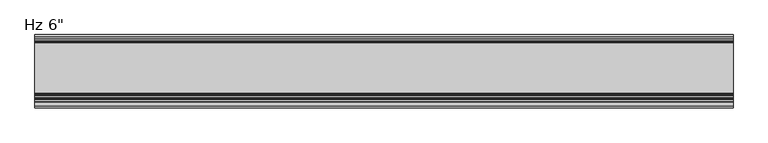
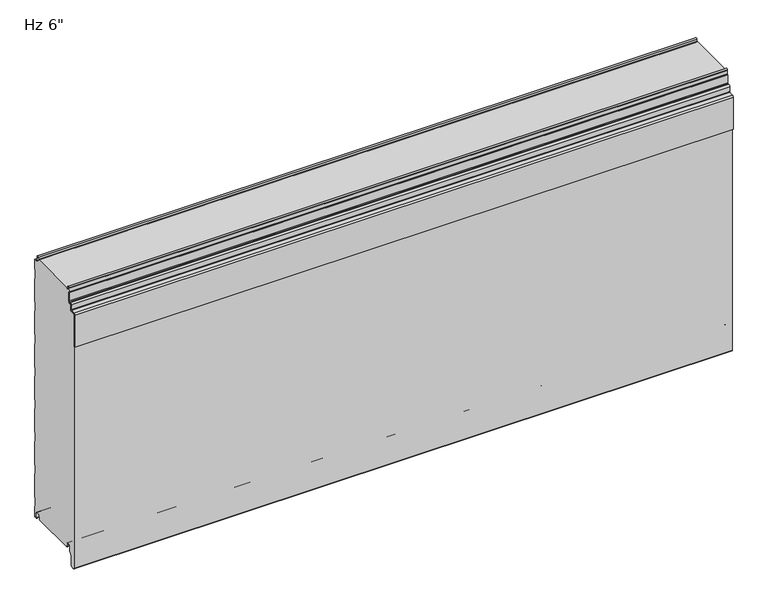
"""IFC4 building model written with IfcOpenShell, lengths in millimetres: plate geometry."""

import ifcopenshell
import ifcopenshell.guid

model = None  # the IFC model being written
_history = None  # IfcOwnerHistory: only IFC2X3 demands one
_inside = {}  # id of a spatial element -> (the spatial element, [elements in it])
_under = {}  # id of a project, library or spatial element -> (it, [spatial elements below it])
_declared = {}  # id of a project -> (the project, [libraries it declares])
_typed = {}  # id of a type object -> (the type object, [elements of that type])
_made_of = {}  # id of a material, layer set ... -> (it, [elements and type objects made of it])


def new_model(schema):
    """Start an empty IFC model of exactly this schema.

    Asked for "IFC4X3", IfcOpenShell would pick the latest addendum, in which some entities
    have other attributes; the version numbers below select the first issue.
    IFC2X3 requires an IfcOwnerHistory on every rooted entity: one is made here for all.
    """
    global model, _history
    if schema == "IFC4X3":
        model = ifcopenshell.file(schema_version=(4, 3, 0, 0))
    else:
        model = ifcopenshell.file(schema=schema)
    _inside.clear()
    _under.clear()
    _declared.clear()
    _typed.clear()
    _made_of.clear()
    _history = None
    if model.schema == "IFC2X3":
        org = make("IfcOrganization", Name="unknown")
        user = make(
            "IfcPersonAndOrganization",
            ThePerson=make("IfcPerson", FamilyName="unknown"),
            TheOrganization=org,
        )
        app = make(
            "IfcApplication",
            ApplicationDeveloper=org,
            Version="unknown",
            ApplicationFullName="unknown",
            ApplicationIdentifier="unknown",
        )
        _history = make(
            "IfcOwnerHistory",
            OwningUser=user,
            OwningApplication=app,
            ChangeAction="ADDED",
            CreationDate=0,
        )
    return model


def make(cls, **values):
    """One entity of the class cls with the attributes given. An attribute that is None is left unset."""
    return model.create_entity(
        cls, **{name: value for name, value in values.items() if value is not None}
    )


def rooted(cls, **values):
    """An entity with a GlobalId (a new one), such as an element, a storey or a relation."""
    return make(cls, GlobalId=ifcopenshell.guid.new(), OwnerHistory=_history, **values)


def si_unit(unit_type, name, prefix=None):
    """IfcSIUnit, for example si_unit("LENGTHUNIT", "METRE", prefix="MILLI")."""
    return make("IfcSIUnit", UnitType=unit_type, Prefix=prefix, Name=name)


def assignment(units):
    """IfcUnitAssignment: the units of a project."""
    return None if units is None else make("IfcUnitAssignment", Units=units)


def point(xyz):
    """IfcCartesianPoint."""
    return None if xyz is None else make("IfcCartesianPoint", Coordinates=xyz)


def direction(xyz):
    """IfcDirection."""
    return None if xyz is None else make("IfcDirection", DirectionRatios=xyz)


def frame(location, z_axis=None, x_axis=None):
    """IfcAxis2Placement3D, a coordinate frame: its origin and axes. An axis left out is left unset."""
    return make(
        "IfcAxis2Placement3D",
        Location=point(location),
        Axis=direction(z_axis),
        RefDirection=direction(x_axis),
    )


def origin():
    """The frame at (0, 0, 0) with its axes left unset."""
    return frame((0.0, 0.0, 0.0))


def place(relative_to, where):
    """IfcLocalPlacement: puts the frame where relative to a parent placement (None: the world)."""
    return make(
        "IfcLocalPlacement", PlacementRelTo=relative_to, RelativePlacement=where
    )


def context(
    kind, dimensions, precision=None, world=None, true_north=None, identifier=None
):
    """IfcGeometricRepresentationContext, for example the 3D "Model" context."""
    return make(
        "IfcGeometricRepresentationContext",
        ContextIdentifier=identifier,
        ContextType=kind,
        CoordinateSpaceDimension=dimensions,
        Precision=precision,
        WorldCoordinateSystem=world,
        TrueNorth=true_north,
    )


def project(units=None, contexts=None):
    """IfcProject with its units and contexts."""
    return rooted(
        "IfcProject",
        Name="project",
        RepresentationContexts=contexts,
        UnitsInContext=assignment(units),
    )


def spatial(cls, under=None, at=None, **own):
    """A site, building, storey or space (cls), placed at a placement, below another one or the project."""
    s = rooted(cls, ObjectPlacement=at, **own)
    if under is not None:
        _under.setdefault(under.id(), (under, []))[1].append(s)
    return s


def polyline(points):
    """IfcPolyline through the points."""
    return make("IfcPolyline", Points=[point(p) for p in points])


def circle_curve(where, radius):
    """IfcCircle in the frame where."""
    return make("IfcCircle", Position=where, Radius=radius)


def shape(context_of_items, identifier, shape_type, items):
    """IfcShapeRepresentation: the items that make up one representation, for example the "Body"."""
    return make(
        "IfcShapeRepresentation",
        ContextOfItems=context_of_items,
        RepresentationIdentifier=identifier,
        RepresentationType=shape_type,
        Items=items,
    )


def source(mapping_origin, context_of_items, identifier, shape_type, items):
    """IfcRepresentationMap: a shape defined once, which mapped items show again and again."""
    return make(
        "IfcRepresentationMap",
        MappingOrigin=mapping_origin,
        MappedRepresentation=shape(context_of_items, identifier, shape_type, items),
    )


def transform(
    local_origin,
    x_axis=None,
    y_axis=None,
    z_axis=None,
    scale=None,
    scale2=None,
    scale3=None,
    uniform=True,
):
    """IfcCartesianTransformationOperator3D, or its non-uniform kind. x_axis, y_axis, z_axis: its Axis1, 2, 3."""
    if uniform:
        return make(
            "IfcCartesianTransformationOperator3D",
            Axis1=direction(x_axis),
            Axis2=direction(y_axis),
            LocalOrigin=point(local_origin),
            Scale=scale,
            Axis3=direction(z_axis),
        )
    return make(
        "IfcCartesianTransformationOperator3DnonUniform",
        Axis1=direction(x_axis),
        Axis2=direction(y_axis),
        LocalOrigin=point(local_origin),
        Scale=scale,
        Axis3=direction(z_axis),
        Scale2=scale2,
        Scale3=scale3,
    )


def mapped(mapping_source, mapping_target):
    """IfcMappedItem: shows the shape of a source again, moved by a transform."""
    return make(
        "IfcMappedItem", MappingSource=mapping_source, MappingTarget=mapping_target
    )


def made_of(thing, what):
    """Note that an element or type object is made of a material, layer set ...; save() writes the relation."""
    if what is not None:
        _made_of.setdefault(what.id(), (what, []))[1].append(thing)
    return thing


def element(
    cls,
    number,
    at=None,
    inside=None,
    cuts=None,
    type_object=None,
    material=None,
    context=None,
    identifier="Body",
    shape_type=None,
    held_by="IfcProductDefinitionShape",
    body=None,
    shapes=None,
    **own,
):
    """One element of the class cls, such as IfcWall. Its Tag is "e" and its number.

    at: its placement. inside: the storey or other place that contains it. cuts: it is an
    opening in that element (IfcRelVoidsElement). A single representation is given by context,
    identifier, shape_type and body (its items); several are given by shapes. held_by: the class
    of the entity that holds the representations. save() writes the other relations.
    """
    e = rooted(cls, Tag="e%d" % number, ObjectPlacement=at, **own)
    if body is not None:
        shapes = [shape(context, identifier, shape_type, body)]
    if shapes is not None:
        e.Representation = make(held_by, Representations=shapes)
    if inside is not None:
        _inside.setdefault(inside.id(), (inside, []))[1].append(e)
    if cuts is not None:
        rooted(
            "IfcRelVoidsElement", RelatingBuildingElement=cuts, RelatedOpeningElement=e
        )
    if type_object is not None:
        _typed.setdefault(type_object.id(), (type_object, []))[1].append(e)
    return made_of(e, material)


def aggregate(whole, parts):
    """IfcRelAggregates: a whole, such as a stair, and the parts it consists of."""
    return rooted("IfcRelAggregates", RelatingObject=whole, RelatedObjects=parts)


def save(model, path):
    """Write the relations noted so far, then the file.

    IfcRelAggregates (storeys below a building ...), IfcRelContainedInSpatialStructure (elements
    in a storey), IfcRelDefinesByType, IfcRelAssociatesMaterial and IfcRelDeclares: one each for
    every whole, place, type object, material and project.
    """
    for whole, parts in _under.values():
        aggregate(whole, parts)
    for where, things in _inside.values():
        rooted(
            "IfcRelContainedInSpatialStructure",
            RelatedElements=things,
            RelatingStructure=where,
        )
    for kind, things in _typed.values():
        rooted("IfcRelDefinesByType", RelatedObjects=things, RelatingType=kind)
    for what, things in _made_of.values():
        rooted("IfcRelAssociatesMaterial", RelatedObjects=things, RelatingMaterial=what)
    for by, libraries in _declared.values():
        rooted("IfcRelDeclares", RelatingContext=by, RelatedDefinitions=libraries)
    model.write(path)


def plane_surface(at):
    """IfcPlane: the flat surface through the origin of the frame at, square to its z axis."""
    return make("IfcPlane", Position=at)


def cylinder_surface(at, radius):
    """IfcCylindricalSurface: all points at the distance radius from the z axis of the frame at."""
    return make("IfcCylindricalSurface", Position=at, Radius=radius)


def revolved_surface(curve, axis_point, axis_direction):
    """IfcSurfaceOfRevolution: the curve turned about the line through axis_point along axis_direction."""
    return make(
        "IfcSurfaceOfRevolution",
        SweptCurve=make("IfcArbitraryOpenProfileDef", ProfileType="CURVE", Curve=curve),
        AxisPosition=make("IfcAxis1Placement", Location=point(axis_point), Axis=direction(axis_direction)),
    )


def advanced_brep(points, edges, surfaces, faces):
    """IfcAdvancedBrep: a solid bounded by faces that lie on surfaces and meet in shared edges.

    An edge is (start, end): straight between two places in points (the first is 0);
    or (start, end, curve); or (start, end, curve, False) where it runs against its curve.
    A face is (place in surfaces, loops), or (place, loops, False) where it looks against
    its surface's normal. A loop lists edges by number (the first is 1), with a minus sign
    where the edge is run from its end to its start. The first loop is the outer one.
    """
    corners = [point(p) for p in points]
    vertices = [make("IfcVertexPoint", VertexGeometry=c) for c in corners]
    made = []
    for start, end, *more in edges:
        made.append(
            make(
                "IfcEdgeCurve",
                EdgeStart=vertices[start],
                EdgeEnd=vertices[end],
                EdgeGeometry=more[0] if more else make("IfcPolyline", Points=[corners[start], corners[end]]),
                SameSense=more[1] if len(more) > 1 else True,
            )
        )
    hull = []
    for where, loops, *sense in faces:
        bounds = []
        for j, loop in enumerate(loops):
            ring = [make("IfcOrientedEdge", EdgeElement=made[abs(k) - 1], Orientation=k > 0) for k in loop]
            bounds.append(
                make(
                    "IfcFaceOuterBound" if j == 0 else "IfcFaceBound",
                    Bound=make("IfcEdgeLoop", EdgeList=ring),
                    Orientation=True,
                )
            )
        hull.append(make("IfcAdvancedFace", Bounds=bounds, FaceSurface=surfaces[where], SameSense=sense[0] if sense else True))
    return make("IfcAdvancedBrep", Outer=make("IfcClosedShell", CfsFaces=hull))


def plate_a08392b7(model_context):
    return source(origin(), model_context, "Body", "AdvancedBrep", [
        advanced_brep(
        [(730.0, -131.3008679, 583.4464086), (730.0, -131.3008679, 602.1916086), (730.0, -132.8248679, 602.1916086), (730.0, -132.8248679, 583.4464086), (730.0, -134.3488679, 581.9224086), (730.0, -137.4476679, 581.9224086), (730.0, -140.9020679, 578.4680086), (730.0, -140.9020679, 567.2554512), (730.0, -141.5976552, 566.4963509), (730.0, -151.1416507, 565.3015233), (730.0, -153.924, 562.2651218), (730.0, -153.9360323, 486.6978086), (730.0, -152.4, 486.6978086), (730.0, -152.4, 562.2651218), (730.0, -151.0088254, 563.7833225), (730.0, -141.4648299, 564.9781501), (730.0, -139.3780679, 567.2554512), (730.0, -139.3780679, 578.4680086), (730.0, -137.4476679, 580.3984086), (730.0, -134.3488679, 580.3984086), (-730.0, -131.3008679, 583.4464086), (-730.0, -134.3488679, 580.3984086), (-730.0, -137.4476679, 580.3984086), (-730.0, -139.3780679, 578.4680086), (-730.0, -139.3780679, 567.2554512), (-730.0, -141.4648299, 564.9781501), (-730.0, -151.0088254, 563.7833225), (-730.0, -152.4, 562.2651218), (-730.0, -152.4, 486.6978086), (-730.0, -153.9360323, 486.6978086), (-730.0, -153.9360323, 562.2651218), (-730.0, -151.1416507, 565.3015233), (-730.0, -141.5976552, 566.4963509), (-730.0, -140.9020679, 567.2554512), (-730.0, -140.9020679, 578.4680086), (-730.0, -137.4476679, 581.9224086), (-730.0, -134.3488679, 581.9224086), (-730.0, -132.8248679, 583.4464086), (-730.0, -132.8248679, 602.1916086), (-730.0, -131.3008679, 602.1916086)],
        [
            (0, 1),
            (1, 2),
            (2, 3),
            (3, 4, circle_curve(frame((730.0, -134.3488679, 583.4464086), z_axis=(-1.0, 0.0, 0.0), x_axis=(0.0, 1.0, 0.0)), 1.524)),
            (4, 5),
            (5, 6, circle_curve(frame((730.0, -137.4476679, 578.4680086), z_axis=(1.0, 0.0, 0.0), x_axis=(0.0, 1.0, 0.0)), 3.4544)),
            (6, 7),
            (7, 8, circle_curve(frame((730.0, -141.6640679, 567.2554512), z_axis=(-1.0, 0.0, 0.0), x_axis=(0.0, 1.0, 0.0)), 0.762)),
            (8, 9),
            (9, 10, circle_curve(frame((730.0, -150.876, 562.2651218), z_axis=(1.0, 0.0, 0.0), x_axis=(0.0, 1.0, 0.0)), 3.048)),
            (10, 11),
            (11, 12),
            (12, 13),
            (13, 14, circle_curve(frame((730.0, -150.876, 562.2651218), z_axis=(-1.0, 0.0, 0.0), x_axis=(0.0, 1.0, 0.0)), 1.524)),
            (14, 15),
            (15, 16, circle_curve(frame((730.0, -141.6640679, 567.2554512), z_axis=(1.0, 0.0, 0.0), x_axis=(0.0, 1.0, 0.0)), 2.286)),
            (16, 17),
            (17, 18, circle_curve(frame((730.0, -137.4476679, 578.4680086), z_axis=(-1.0, 0.0, 0.0), x_axis=(0.0, 1.0, 0.0)), 1.9304)),
            (18, 19),
            (19, 0, circle_curve(frame((730.0, -134.3488679, 583.4464086), z_axis=(1.0, 0.0, 0.0), x_axis=(0.0, 1.0, 0.0)), 3.048)),
            (20, 21, circle_curve(frame((-730.0, -134.3488679, 583.4464086), z_axis=(-1.0, 0.0, 0.0), x_axis=(0.0, 1.0, 0.0)), 3.048)),
            (21, 22),
            (22, 23, circle_curve(frame((-730.0, -137.4476679, 578.4680086), z_axis=(1.0, 0.0, 0.0), x_axis=(0.0, 1.0, 0.0)), 1.9304)),
            (23, 24),
            (24, 25, circle_curve(frame((-730.0, -141.6640679, 567.2554512), z_axis=(-1.0, 0.0, 0.0), x_axis=(0.0, 1.0, 0.0)), 2.286)),
            (25, 26),
            (26, 27, circle_curve(frame((-730.0, -150.876, 562.2651218), z_axis=(1.0, 0.0, 0.0), x_axis=(0.0, 1.0, 0.0)), 1.524)),
            (27, 28),
            (28, 29),
            (29, 30),
            (30, 31, circle_curve(frame((-730.0, -150.876, 562.2651218), z_axis=(-1.0, 0.0, 0.0), x_axis=(0.0, 1.0, 0.0)), 3.048)),
            (31, 32),
            (32, 33, circle_curve(frame((-730.0, -141.6640679, 567.2554512), z_axis=(1.0, 0.0, 0.0), x_axis=(0.0, 1.0, 0.0)), 0.762)),
            (33, 34),
            (34, 35, circle_curve(frame((-730.0, -137.4476679, 578.4680086), z_axis=(-1.0, 0.0, 0.0), x_axis=(0.0, 1.0, 0.0)), 3.4544)),
            (35, 36),
            (36, 37, circle_curve(frame((-730.0, -134.3488679, 583.4464086), z_axis=(1.0, 0.0, 0.0), x_axis=(0.0, 1.0, 0.0)), 1.524)),
            (37, 38),
            (38, 39),
            (39, 20),
            (2, 38),
            (37, 3),
            (15, 25),
            (24, 16),
            (7, 33),
            (32, 8),
            (5, 35),
            (34, 6),
            (1, 39),
            (36, 4),
            (9, 31),
            (30, 10),
            (13, 27),
            (26, 14),
            (0, 20),
            (12, 28),
            (29, 11),
            (23, 17),
            (18, 22),
            (21, 19),
        ],
        [
            plane_surface(frame((730.0, -152.4, 602.1916086), z_axis=(1.0, 0.0, 0.0), x_axis=(0.0, 0.0, -1.0))),
            plane_surface(frame((-730.0, -152.4, 602.1916086), z_axis=(-1.0, 0.0, 0.0), x_axis=(0.0, 0.0, -1.0))),
            plane_surface(frame((730.0, -132.8248679, 583.4464086), z_axis=(0.0, -1.0, 0.0), x_axis=(-1.0, 0.0, 0.0))),
            cylinder_surface(frame((730.0, -141.6640679, 567.2554512), z_axis=(1.0, 0.0, 0.0), x_axis=(0.0, 1.0, 0.0)), 2.286),
            revolved_surface(polyline([(-730.0, -140.9020679, 567.2554512), (730.0, -140.9020679, 567.2554512)]), (730.0, -141.6640679, 567.2554512), (-1.0, 0.0, 0.0)),
            cylinder_surface(frame((730.0, -137.4476679, 578.4680086), z_axis=(1.0, 0.0, 0.0), x_axis=(0.0, 1.0, 0.0)), 3.4544),
            plane_surface(frame((730.0, -132.8248679, 602.1916086), z_axis=(0.0, 0.0, 1.0), x_axis=(-1.0, 0.0, 0.0))),
            revolved_surface(polyline([(-730.0, -132.8248679, 583.4464086), (730.0, -132.8248679, 583.4464086)]), (730.0, -134.3488679, 583.4464086), (-1.0, 0.0, 0.0)),
            cylinder_surface(frame((730.0, -150.876, 562.2651218), z_axis=(1.0, 0.0, 0.0), x_axis=(0.0, 1.0, 0.0)), 3.048),
            revolved_surface(polyline([(-730.0, -149.352, 562.2651218), (730.0, -149.352, 562.2651218)]), (730.0, -150.876, 562.2651218), (-1.0, 0.0, 0.0)),
            plane_surface(frame((730.0, -131.3008679, 602.1916086), z_axis=(0.0, 1.0, 0.0), x_axis=(-1.0, 0.0, 0.0))),
            plane_surface(frame((730.0, -141.4648299, 564.9781501), z_axis=(0.0, 0.12422187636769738, -0.9922544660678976), x_axis=(-1.0, 0.0, 0.0))),
            plane_surface(frame((730.0, -152.4, 562.2651218), z_axis=(0.0, 1.0, 0.0), x_axis=(-1.0, 0.0, 0.0))),
            plane_surface(frame((730.0, -151.1416507, 565.3015233), z_axis=(0.0, -0.12422187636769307, 0.9922544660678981), x_axis=(-1.0, 0.0, 0.0))),
            plane_surface(frame((730.0, -137.4476679, 581.9224086), z_axis=(0.0, 0.0, 1.0), x_axis=(-1.0, 0.0, 0.0))),
            plane_surface(frame((730.0, -153.9360323, 486.6978086), z_axis=(0.0, -1.0, 0.0), x_axis=(-1.0, 0.0, 0.0))),
            plane_surface(frame((730.0, -152.4, 486.6978086), z_axis=(0.0, 0.0, -1.0), x_axis=(-1.0, 0.0, 0.0))),
            plane_surface(frame((730.0, -139.3780679, 578.4680086), z_axis=(0.0, 1.0, 0.0), x_axis=(-1.0, 0.0, 0.0))),
            plane_surface(frame((730.0, -134.3488679, 580.3984086), z_axis=(0.0, 0.0, -1.0), x_axis=(-1.0, 0.0, 0.0))),
            plane_surface(frame((730.0, -140.9020679, 567.2554512), z_axis=(0.0, -1.0, 0.0), x_axis=(-1.0, 0.0, 0.0))),
            revolved_surface(polyline([(-730.0, -135.5172679, 578.4680086), (730.0, -135.5172679, 578.4680086)]), (730.0, -137.4476679, 578.4680086), (-1.0, 0.0, 0.0)),
            cylinder_surface(frame((730.0, -134.3488679, 583.4464086), z_axis=(1.0, 0.0, 0.0), x_axis=(0.0, 1.0, 0.0)), 3.048),
        ],
        [
            (0, [[1, 2, 3, 4, 5, 6, 7, 8, 9, 10, 11, 12, 13, 14, 15, 16, 17, 18, 19, 20]]),
            (1, [[21, 22, 23, 24, 25, 26, 27, 28, 29, 30, 31, 32, 33, 34, 35, 36, 37, 38, 39, 40]]),
            (2, [[41, -38, 42, -3]]),
            (3, [[43, -25, 44, -16]]),
            (4, [[45, -33, 46, -8]]),
            (5, [[47, -35, 48, -6]]),
            (6, [[49, -39, -41, -2]]),
            (7, [[-42, -37, 50, -4]]),
            (8, [[51, -31, 52, -10]]),
            (9, [[53, -27, 54, -14]]),
            (10, [[55, -40, -49, -1]]),
            (11, [[-54, -26, -43, -15]]),
            (12, [[56, -28, -53, -13]]),
            (13, [[-46, -32, -51, -9]]),
            (14, [[-50, -36, -47, -5]]),
            (15, [[-52, -30, 57, -11]]),
            (16, [[-57, -29, -56, -12]]),
            (17, [[-44, -24, 58, -17]]),
            (18, [[59, -22, 60, -19]]),
            (19, [[-48, -34, -45, -7]]),
            (20, [[-58, -23, -59, -18]]),
            (21, [[-60, -21, -55, -20]]),
        ],
    ),
        advanced_brep(
        [(-730.0, -124.070875, 1.0316999), (-730.0, -122.9014003, 2.2328239), (-730.0, -122.9014003, 5.9912173), (-730.0, -124.2998791, 5.9912173), (-730.0, -124.2998791, 8.6903283), (-730.0, -127.6498744, 12.0403236), (-730.0, -132.0498656, 12.0403236), (-730.0, -135.3998609, 8.6903283), (-730.0, -135.3998609, -3.1205608), (-730.0, -135.8977778, -4.3226385), (-730.0, -141.3998489, -9.8247096), (-730.0, -141.3998489, -31.9198392), (-730.0, -143.6184509, -34.5765709), (-730.0, -148.6002718, -35.0125699), (-730.0, -151.3945967, -32.4521176), (-730.0, -151.4, 561.115622), (-730.0, -149.6149259, 563.0669057), (-730.0, -141.1539491, 563.821161), (-730.0, -138.3906462, 566.9653654), (-730.0, -138.3906462, 577.0583308), (-730.0, -137.4392375, 578.0097394), (-730.0, -134.2955822, 578.0097394), (-730.0, -130.2961292, 582.0091924), (-730.0, -130.2961292, 603.1895515), (-730.0, -132.276977, 604.3334028), (-730.0, -131.9217167, 613.306811), (-730.0, -127.7211391, 613.3037148), (-730.0, -127.4767242, 609.2977997), (-730.0, -125.6819116, 607.5686884), (-730.0, -122.897365, 607.5686884), (-730.0, -122.897365, 608.5686884), (-730.0, -124.484865, 608.5686884), (-730.0, -123.4535534, 609.6), (-730.0, -18.6184525, 609.6), (-730.0, -17.5871409, 608.5686884), (-730.0, -19.0015288, 608.5686884), (-730.0, -19.0015288, 607.5686884), (-730.0, -16.6743462, 607.5686884), (-730.0, -14.9256429, 609.2513685), (-730.0, -14.7059822, 613.3921924), (-730.0, -10.4046442, 613.3931719), (-730.0, -9.9974365, 604.9016499), (-730.0, -6.0026007, 601.0787013), (-730.0, -1.0, 601.0787013), (-730.0, -1.0, 576.5794011), (-730.0, -2.2002307, 575.1937682), (-730.0, -2.2002307, 555.8186019), (-730.0, -1.0, 554.4329689), (-730.0, -1.0, 500.3795535), (-730.0, -2.2002307, 498.9939206), (-730.0, -2.2002307, 479.6187543), (-730.0, -1.0, 478.2331213), (-730.0, -1.0, 424.1797059), (-730.0, -2.2002307, 422.794073), (-730.0, -2.2002307, 403.4189067), (-730.0, -1.0, 402.0332737), (-730.0, -1.0, 347.9798583), (-730.0, -2.2002307, 346.5942254), (-730.0, -2.2002307, 327.2190591), (-730.0, -1.0, 325.8334261), (-730.0, -1.0, 271.7800107), (-730.0, -2.2002307, 270.3943778), (-730.0, -2.2002307, 251.0192115), (-730.0, -1.0, 249.6335785), (-730.0, -1.0, 195.5801631), (-730.0, -2.2002307, 194.1945302), (-730.0, -2.2002307, 174.8193639), (-730.0, -1.0, 173.4337309), (-730.0, -1.0, 119.3803155), (-730.0, -2.2002307, 117.9946826), (-730.0, -2.2002307, 98.6195163), (-730.0, -1.0, 97.2338833), (-730.0, -1.0, 43.1804679), (-730.0, -2.2002307, 41.794835), (-730.0, -2.2002307, 22.4196687), (-730.0, -0.9999916, 21.034026), (-730.0, -0.9999916, -3.4662506), (-730.0, -5.2315389, -3.4662506), (-730.0, -7.0015331, -1.6962564), (-730.0, -7.0015331, 8.7237222), (-730.0, -10.301529, 12.023718), (-730.0, -14.7015202, 12.023718), (-730.0, -18.0015159, 8.7237223), (-730.0, -18.0015159, 6.0315125), (-730.0, -19.0015105, 6.0315125), (-730.0, -19.0015105, 2.0313089), (-730.0, -18.0015192, 1.0313117), (-730.0, -19.0328308, 0.0), (-730.0, -123.0391751, 0.0), (730.0, -124.070875, 1.0316999), (730.0, -123.0391751, 0.0), (730.0, -19.0328308, 0.0), (730.0, -18.0015192, 1.0313117), (730.0, -19.0015105, 2.0313089), (730.0, -19.0015105, 6.0315125), (730.0, -18.0015159, 6.0315125), (730.0, -18.0015159, 8.7237223), (730.0, -14.7015202, 12.023718), (730.0, -10.301529, 12.023718), (730.0, -7.0015331, 8.7237222), (730.0, -7.0015331, -1.6962564), (730.0, -5.2315389, -3.4662506), (730.0, -0.9999916, -3.4662506), (730.0, -0.9999916, 21.034026), (730.0, -2.2002307, 22.4196687), (730.0, -2.2002307, 41.794835), (730.0, -1.0, 43.1804679), (730.0, -1.0, 97.2338833), (730.0, -2.2002307, 98.6195163), (730.0, -2.2002307, 117.9946826), (730.0, -1.0, 119.3803155), (730.0, -1.0, 173.4337309), (730.0, -2.2002307, 174.8193639), (730.0, -2.2002307, 194.1945302), (730.0, -1.0, 195.5801631), (730.0, -1.0, 249.6335785), (730.0, -2.2002307, 251.0192115), (730.0, -2.2002307, 270.3943778), (730.0, -1.0, 271.7800107), (730.0, -1.0, 325.8334261), (730.0, -2.2002307, 327.2190591), (730.0, -2.2002307, 346.5942254), (730.0, -1.0, 347.9798583), (730.0, -1.0, 402.0332737), (730.0, -2.2002307, 403.4189067), (730.0, -2.2002307, 422.794073), (730.0, -1.0, 424.1797059), (730.0, -1.0, 478.2331213), (730.0, -2.2002307, 479.6187543), (730.0, -2.2002307, 498.9939206), (730.0, -1.0, 500.3795535), (730.0, -1.0, 554.4329689), (730.0, -2.2002307, 555.8186019), (730.0, -2.2002307, 575.1937682), (730.0, -1.0, 576.5794011), (730.0, -1.0, 601.0787013), (730.0, -6.0026007, 601.0787013), (730.0, -9.9974365, 604.9016499), (730.0, -10.4046442, 613.3931719), (730.0, -14.7059822, 613.3921924), (730.0, -14.9256429, 609.2513685), (730.0, -16.6743462, 607.5686884), (730.0, -19.0015288, 607.5686884), (730.0, -19.0015288, 608.5686884), (730.0, -17.5871409, 608.5686884), (730.0, -18.6184525, 609.6), (730.0, -123.4535534, 609.6), (730.0, -124.484865, 608.5686884), (730.0, -122.897365, 608.5686884), (730.0, -122.897365, 607.5686884), (730.0, -125.6819116, 607.5686884), (730.0, -127.4767242, 609.2977997), (730.0, -127.7211391, 613.3037148), (730.0, -131.9217167, 613.306811), (730.0, -132.276977, 604.3334028), (730.0, -130.2961292, 603.1895515), (730.0, -130.2961292, 582.0091924), (730.0, -134.2955822, 578.0097394), (730.0, -137.4392375, 578.0097394), (730.0, -138.3906462, 577.0583308), (730.0, -138.3906462, 566.9653654), (730.0, -141.1539491, 563.821161), (730.0, -149.6149259, 563.0669057), (730.0, -151.4, 561.115622), (730.0, -151.4, -32.4521176), (730.0, -148.6002718, -35.0125699), (730.0, -143.6184509, -34.5765709), (730.0, -141.3998489, -31.9198392), (730.0, -141.3998489, -9.8247096), (730.0, -135.8977778, -4.3226385), (730.0, -135.3998609, -3.1205608), (730.0, -135.3998609, 8.6903283), (730.0, -132.0498656, 12.0403236), (730.0, -127.6498744, 12.0403236), (730.0, -124.2998791, 8.6903283), (730.0, -124.2998791, 5.9912173), (730.0, -122.9014003, 5.9912173), (730.0, -122.9014003, 2.2328239)],
        [
            (0, 1, circle_curve(frame((-730.0, -124.1013969, 2.2313092), z_axis=(1.0, 0.0, 0.0), x_axis=(0.0, 0.0, -1.0)), 1.1999976)),
            (1, 2),
            (2, 3),
            (3, 4),
            (4, 5, circle_curve(frame((-730.0, -127.6498744, 8.6903283), z_axis=(1.0, 0.0, 0.0), x_axis=(0.0, 0.0, -1.0)), 3.3499953)),
            (5, 6),
            (6, 7, circle_curve(frame((-730.0, -132.0498656, 8.6903283), z_axis=(1.0, 0.0, 0.0), x_axis=(0.0, 0.0, -1.0)), 3.3499953)),
            (7, 8),
            (8, 9, circle_curve(frame((-730.0, -137.0998555, -3.1205608), z_axis=(-1.0, 0.0, 0.0), x_axis=(0.0, 0.0, -1.0)), 1.6999946)),
            (9, 10),
            (10, 11),
            (11, 12, circle_curve(frame((-730.0, -144.0998415, -31.9198392), z_axis=(-1.0, 0.0, 0.0), x_axis=(0.0, 0.0, -1.0)), 2.6999926)),
            (12, 13),
            (13, 14, circle_curve(frame((-730.0, -148.8243575, -32.4521176), z_axis=(-1.0, 0.0, 0.0), x_axis=(0.0, 0.0, -1.0)), 2.5702393)),
            (14, 15),
            (15, 16, circle_curve(frame((-730.0, -149.4409784, 561.115622), z_axis=(-1.0, 0.0, 0.0), x_axis=(0.0, 0.0, -1.0)), 1.9590216)),
            (16, 17),
            (17, 18, circle_curve(frame((-730.0, -141.4180321, 566.8396267), z_axis=(1.0, 0.0, 0.0), x_axis=(0.0, 0.0, -1.0)), 3.0299959)),
            (18, 19),
            (19, 20, circle_curve(frame((-730.0, -137.4392375, 577.0583308), z_axis=(-1.0, 0.0, 0.0), x_axis=(0.0, 0.0, -1.0)), 0.9514087)),
            (20, 21),
            (21, 22, circle_curve(frame((-730.0, -134.2955822, 582.0091924), z_axis=(1.0, 0.0, 0.0), x_axis=(0.0, 0.0, -1.0)), 3.9994529)),
            (22, 23),
            (23, 24),
            (24, 25),
            (25, 26, circle_curve(frame((-730.0, -129.821488, 613.2236622), z_axis=(-1.0, 0.0, 0.0), x_axis=(0.0, 0.0, -1.0)), 2.1018739)),
            (26, 27),
            (27, 28, circle_curve(frame((-730.0, -125.6383506, 609.4099653), z_axis=(1.0, 0.0, 0.0), x_axis=(0.0, 0.0, -1.0)), 1.8417922)),
            (28, 29),
            (29, 30),
            (30, 31),
            (31, 32),
            (32, 33),
            (33, 34),
            (34, 35),
            (35, 36),
            (36, 37),
            (37, 38, circle_curve(frame((-730.0, -16.6743462, 609.3186869), z_axis=(1.0, 0.0, 0.0), x_axis=(0.0, 0.0, 1.0)), 1.7499985)),
            (38, 39),
            (39, 40, circle_curve(frame((-730.0, -12.5552871, 613.2781032), z_axis=(-1.0, 0.0, 0.0), x_axis=(0.0, 0.0, 1.0)), 2.153719)),
            (40, 41),
            (41, 42, circle_curve(frame((-730.0, -5.9867338, 605.0939817), z_axis=(1.0, 0.0, 0.0), x_axis=(0.0, 0.0, 1.0)), 4.0153117)),
            (42, 43),
            (43, 44),
            (44, 45),
            (45, 46),
            (46, 47),
            (47, 48),
            (48, 49),
            (49, 50),
            (50, 51),
            (51, 52),
            (52, 53),
            (53, 54),
            (54, 55),
            (55, 56),
            (56, 57),
            (57, 58),
            (58, 59),
            (59, 60),
            (60, 61),
            (61, 62),
            (62, 63),
            (63, 64),
            (64, 65),
            (65, 66),
            (66, 67),
            (67, 68),
            (68, 69),
            (69, 70),
            (70, 71),
            (71, 72),
            (72, 73),
            (73, 74),
            (74, 75),
            (75, 76),
            (76, 77),
            (77, 78, circle_curve(frame((-730.0, -5.2315389, -1.6962564), z_axis=(-1.0, 0.0, 0.0), x_axis=(0.0, 0.0, 1.0)), 1.7699942)),
            (78, 79),
            (79, 80, circle_curve(frame((-730.0, -10.301529, 8.7237222), z_axis=(1.0, 0.0, 0.0), x_axis=(0.0, 0.0, 1.0)), 3.2999959)),
            (80, 81),
            (81, 82, circle_curve(frame((-730.0, -14.7015202, 8.7237223), z_axis=(1.0, 0.0, 0.0), x_axis=(0.0, 0.0, 1.0)), 3.2999957)),
            (82, 83),
            (83, 84),
            (84, 85),
            (85, 86, circle_curve(frame((-730.0, -18.0015133, 2.0313089), z_axis=(1.0, 0.0, 0.0), x_axis=(0.0, 0.0, 1.0)), 0.9999972)),
            (86, 87),
            (87, 88),
            (88, 0),
            (89, 90),
            (90, 91),
            (91, 92),
            (92, 93, circle_curve(frame((730.0, -18.0015133, 2.0313089), z_axis=(-1.0, 0.0, 0.0), x_axis=(0.0, 0.0, 1.0)), 0.9999972)),
            (93, 94),
            (94, 95),
            (95, 96),
            (96, 97, circle_curve(frame((730.0, -14.7015202, 8.7237223), z_axis=(-1.0, 0.0, 0.0), x_axis=(0.0, 0.0, 1.0)), 3.2999957)),
            (97, 98),
            (98, 99, circle_curve(frame((730.0, -10.301529, 8.7237222), z_axis=(-1.0, 0.0, 0.0), x_axis=(0.0, 0.0, 1.0)), 3.2999959)),
            (99, 100),
            (100, 101, circle_curve(frame((730.0, -5.2315389, -1.6962564), z_axis=(1.0, 0.0, 0.0), x_axis=(0.0, 0.0, 1.0)), 1.7699942)),
            (101, 102),
            (102, 103),
            (103, 104),
            (104, 105),
            (105, 106),
            (106, 107),
            (107, 108),
            (108, 109),
            (109, 110),
            (110, 111),
            (111, 112),
            (112, 113),
            (113, 114),
            (114, 115),
            (115, 116),
            (116, 117),
            (117, 118),
            (118, 119),
            (119, 120),
            (120, 121),
            (121, 122),
            (122, 123),
            (123, 124),
            (124, 125),
            (125, 126),
            (126, 127),
            (127, 128),
            (128, 129),
            (129, 130),
            (130, 131),
            (131, 132),
            (132, 133),
            (133, 134),
            (134, 135),
            (135, 136),
            (136, 137, circle_curve(frame((730.0, -5.9867338, 605.0939817), z_axis=(-1.0, 0.0, 0.0), x_axis=(0.0, 0.0, 1.0)), 4.0153117)),
            (137, 138),
            (138, 139, circle_curve(frame((730.0, -12.5552871, 613.2781032), z_axis=(1.0, 0.0, 0.0), x_axis=(0.0, 0.0, 1.0)), 2.153719)),
            (139, 140),
            (140, 141, circle_curve(frame((730.0, -16.6743462, 609.3186869), z_axis=(-1.0, 0.0, 0.0), x_axis=(0.0, 0.0, 1.0)), 1.7499985)),
            (141, 142),
            (142, 143),
            (143, 144),
            (144, 145),
            (145, 146),
            (146, 147),
            (147, 148),
            (148, 149),
            (149, 150),
            (150, 151, circle_curve(frame((730.0, -125.6383506, 609.4099653), z_axis=(-1.0, 0.0, 0.0), x_axis=(0.0, 0.0, -1.0)), 1.8417922)),
            (151, 152),
            (152, 153, circle_curve(frame((730.0, -129.821488, 613.2236622), z_axis=(1.0, 0.0, 0.0), x_axis=(0.0, 0.0, -1.0)), 2.1018739)),
            (153, 154),
            (154, 155),
            (155, 156),
            (156, 157, circle_curve(frame((730.0, -134.2955822, 582.0091924), z_axis=(-1.0, 0.0, 0.0), x_axis=(0.0, 0.0, -1.0)), 3.9994529)),
            (157, 158),
            (158, 159, circle_curve(frame((730.0, -137.4392375, 577.0583308), z_axis=(1.0, 0.0, 0.0), x_axis=(0.0, 0.0, -1.0)), 0.9514087)),
            (159, 160),
            (160, 161, circle_curve(frame((730.0, -141.4180321, 566.8396267), z_axis=(-1.0, 0.0, 0.0), x_axis=(0.0, 0.0, -1.0)), 3.0299959)),
            (161, 162),
            (162, 163, circle_curve(frame((730.0, -149.4409784, 561.115622), z_axis=(1.0, 0.0, 0.0), x_axis=(0.0, 0.0, -1.0)), 1.9590216)),
            (163, 164),
            (164, 165, circle_curve(frame((730.0, -148.8243575, -32.4521176), z_axis=(1.0, 0.0, 0.0), x_axis=(0.0, 0.0, -1.0)), 2.5702393)),
            (165, 166),
            (166, 167, circle_curve(frame((730.0, -144.0998415, -31.9198392), z_axis=(1.0, 0.0, 0.0), x_axis=(0.0, 0.0, -1.0)), 2.6999926)),
            (167, 168),
            (168, 169),
            (169, 170, circle_curve(frame((730.0, -137.0998555, -3.1205608), z_axis=(1.0, 0.0, 0.0), x_axis=(0.0, 0.0, -1.0)), 1.6999946)),
            (170, 171),
            (171, 172, circle_curve(frame((730.0, -132.0498656, 8.6903283), z_axis=(-1.0, 0.0, 0.0), x_axis=(0.0, 0.0, -1.0)), 3.3499953)),
            (172, 173),
            (173, 174, circle_curve(frame((730.0, -127.6498744, 8.6903283), z_axis=(-1.0, 0.0, 0.0), x_axis=(0.0, 0.0, -1.0)), 3.3499953)),
            (174, 175),
            (175, 176),
            (176, 177),
            (177, 89, circle_curve(frame((730.0, -124.1013969, 2.2313092), z_axis=(-1.0, 0.0, 0.0), x_axis=(0.0, 0.0, -1.0)), 1.1999976)),
            (88, 90),
            (89, 0),
            (87, 91),
            (32, 146),
            (145, 33),
            (31, 147),
            (30, 148),
            (29, 149),
            (28, 150),
            (27, 151),
            (26, 152),
            (25, 153),
            (24, 154),
            (23, 155),
            (22, 156),
            (21, 157),
            (20, 158),
            (19, 159),
            (18, 160),
            (17, 161),
            (16, 162),
            (15, 163),
            (14, 164),
            (13, 165),
            (12, 166),
            (11, 167),
            (10, 168),
            (9, 169),
            (8, 170),
            (7, 171),
            (6, 172),
            (5, 173),
            (4, 174),
            (3, 175),
            (2, 176),
            (1, 177),
            (86, 92),
            (85, 93),
            (84, 94),
            (83, 95),
            (82, 96),
            (81, 97),
            (80, 98),
            (79, 99),
            (78, 100),
            (77, 101),
            (76, 102),
            (41, 137),
            (136, 42),
            (40, 138),
            (39, 139),
            (38, 140),
            (37, 141),
            (36, 142),
            (35, 143),
            (34, 144),
            (74, 104),
            (103, 75),
            (73, 105),
            (72, 106),
            (71, 107),
            (70, 108),
            (69, 109),
            (68, 110),
            (67, 111),
            (66, 112),
            (65, 113),
            (64, 114),
            (63, 115),
            (62, 116),
            (61, 117),
            (60, 118),
            (59, 119),
            (58, 120),
            (57, 121),
            (56, 122),
            (55, 123),
            (54, 124),
            (53, 125),
            (52, 126),
            (51, 127),
            (50, 128),
            (49, 129),
            (48, 130),
            (47, 131),
            (46, 132),
            (45, 133),
            (44, 134),
            (43, 135),
        ],
        [
            plane_surface(frame((-730.0, -151.4, 304.8), z_axis=(-1.0, 0.0, 0.0), x_axis=(0.0, -1.0, 0.0))),
            plane_surface(frame((730.0, -151.4, 304.8), z_axis=(1.0, 0.0, 0.0), x_axis=(0.0, -1.0, 0.0))),
            plane_surface(frame((-730.0, -124.070875, 1.0316999), z_axis=(0.0, -0.7071067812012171, -0.707106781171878), x_axis=(1.0, 0.0, 0.0))),
            plane_surface(frame((-730.0, -123.0391751, 0.0), z_axis=(0.0, 0.0, -1.0), x_axis=(1.0, 0.0, 0.0))),
            plane_surface(frame((-730.0, -122.0391751, 609.6), z_axis=(0.0, 0.0, 1.0), x_axis=(1.0, 0.0, 0.0))),
            plane_surface(frame((-730.0, -123.4535534, 609.6), z_axis=(0.0, -0.7071067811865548, 0.7071067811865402), x_axis=(1.0, 0.0, 0.0))),
            plane_surface(frame((-730.0, -124.484865, 608.5686884), z_axis=(0.0, 0.0, -1.0), x_axis=(1.0, 0.0, 0.0))),
            plane_surface(frame((-730.0, -122.897365, 608.5686884), z_axis=(0.0, -1.0, 0.0), x_axis=(1.0, 0.0, 0.0))),
            plane_surface(frame((-730.0, -122.897365, 607.5686884), z_axis=(0.0, 0.0, 1.0), x_axis=(1.0, 0.0, 0.0))),
            revolved_surface(polyline([(730.0, -125.6383506, 607.5681731), (-730.0, -125.6383506, 607.5681731)]), (-730.0, -125.6383506, 609.4099653), (1.0, 0.0, 0.0)),
            plane_surface(frame((-730.0, -127.4767242, 609.2977997), z_axis=(0.0, 0.9981438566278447, 0.06090025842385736), x_axis=(1.0, 0.0, 0.0))),
            cylinder_surface(frame((-730.0, -129.821488, 613.2236622), z_axis=(-1.0, 0.0, 0.0), x_axis=(0.0, 0.0, -1.0)), 2.1018739),
            plane_surface(frame((-730.0, -131.9217167, 613.306811), z_axis=(0.0, -0.9992172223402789, 0.03955935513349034), x_axis=(1.0, 0.0, 0.0))),
            plane_surface(frame((-730.0, -132.276977, 604.3334028), z_axis=(0.0, -0.5000682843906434, -0.865985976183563), x_axis=(1.0, 0.0, 0.0))),
            plane_surface(frame((-730.0, -130.2961292, 603.1895515), z_axis=(0.0, -1.0, 0.0), x_axis=(1.0, 0.0, 0.0))),
            revolved_surface(polyline([(730.0, -134.2955822, 578.0097394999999), (-730.0, -134.2955822, 578.0097394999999)]), (-730.0, -134.2955822, 582.0091924), (1.0, 0.0, 0.0)),
            plane_surface(frame((-730.0, -134.2955822, 578.0097394), z_axis=(0.0, 0.0, 1.0), x_axis=(1.0, 0.0, 0.0))),
            cylinder_surface(frame((-730.0, -137.4392375, 577.0583308), z_axis=(-1.0, 0.0, 0.0), x_axis=(0.0, 0.0, -1.0)), 0.9514087),
            plane_surface(frame((-730.0, -138.3906462, 577.0583308), z_axis=(0.0, -1.0, 0.0), x_axis=(1.0, 0.0, 0.0))),
            revolved_surface(polyline([(730.0, -141.4180321, 563.8096308), (-730.0, -141.4180321, 563.8096308)]), (-730.0, -141.4180321, 566.8396267), (1.0, 0.0, 0.0)),
            plane_surface(frame((-730.0, -141.1539491, 563.821161), z_axis=(0.0, -0.08879306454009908, 0.9960500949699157), x_axis=(1.0, 0.0, 0.0))),
            cylinder_surface(frame((-730.0, -149.4409784, 561.115622), z_axis=(-1.0, 0.0, 0.0), x_axis=(0.0, 0.0, -1.0)), 1.9590216),
            plane_surface(frame((-730.0, -151.4, 561.115622), z_axis=(0.0, -1.0, 0.0), x_axis=(1.0, 0.0, 0.0))),
            cylinder_surface(frame((-730.0, -148.8243575, -32.4521176), z_axis=(-1.0, 0.0, 0.0), x_axis=(0.0, 0.0, -1.0)), 2.5702393),
            plane_surface(frame((-730.0, -148.6002718, -35.0125699), z_axis=(0.0, 0.08718474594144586, -0.9961921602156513), x_axis=(1.0, 0.0, 0.0))),
            cylinder_surface(frame((-730.0, -144.0998415, -31.9198392), z_axis=(-1.0, 0.0, 0.0), x_axis=(0.0, 0.0, -1.0)), 2.6999926),
            plane_surface(frame((-730.0, -141.3998489, -31.9198392), z_axis=(0.0, 1.0, 0.0), x_axis=(1.0, 0.0, 0.0))),
            plane_surface(frame((-730.0, -141.3998489, -9.8247096), z_axis=(0.0, 0.7071067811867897, -0.7071067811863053), x_axis=(1.0, 0.0, 0.0))),
            cylinder_surface(frame((-730.0, -137.0998555, -3.1205608), z_axis=(-1.0, 0.0, 0.0), x_axis=(0.0, 0.0, -1.0)), 1.6999946),
            plane_surface(frame((-730.0, -135.3998609, -3.1205608), z_axis=(0.0, 1.0, 0.0), x_axis=(1.0, 0.0, 0.0))),
            revolved_surface(polyline([(730.0, -132.0498656, 5.340332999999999), (-730.0, -132.0498656, 5.340332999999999)]), (-730.0, -132.0498656, 8.6903283), (1.0, 0.0, 0.0)),
            plane_surface(frame((-730.0, -132.0498656, 12.0403236), z_axis=(0.0, 0.0, -1.0), x_axis=(1.0, 0.0, 0.0))),
            revolved_surface(polyline([(730.0, -127.6498744, 5.340332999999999), (-730.0, -127.6498744, 5.340332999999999)]), (-730.0, -127.6498744, 8.6903283), (1.0, 0.0, 0.0)),
            plane_surface(frame((-730.0, -124.2998791, 8.6903283), z_axis=(0.0, -1.0, 0.0), x_axis=(1.0, 0.0, 0.0))),
            plane_surface(frame((-730.0, -124.2998791, 5.9912173), z_axis=(0.0, 0.0, -1.0), x_axis=(1.0, 0.0, 0.0))),
            plane_surface(frame((-730.0, -122.9014003, 5.9912173), z_axis=(0.0, -1.0, 0.0), x_axis=(1.0, 0.0, 0.0))),
            revolved_surface(polyline([(730.0, -124.1013969, 1.0313116), (-730.0, -124.1013969, 1.0313116)]), (-730.0, -124.1013969, 2.2313092), (1.0, 0.0, 0.0)),
            plane_surface(frame((-730.0, -19.0328308, 0.0), z_axis=(0.0, 0.7071067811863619, -0.7071067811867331), x_axis=(1.0, 0.0, 0.0))),
            revolved_surface(polyline([(730.0, -18.0015133, 3.0313061), (-730.0, -18.0015133, 3.0313061)]), (-730.0, -18.0015133, 2.0313089), (1.0, 0.0, 0.0)),
            plane_surface(frame((-730.0, -19.0015105, 2.0313089), z_axis=(0.0, 1.0, 0.0), x_axis=(1.0, 0.0, 0.0))),
            plane_surface(frame((-730.0, -19.0015105, 6.0315125), z_axis=(0.0, 0.0, -1.0), x_axis=(1.0, 0.0, 0.0))),
            plane_surface(frame((-730.0, -18.0015159, 6.0315125), z_axis=(0.0, 1.0, 0.0), x_axis=(1.0, 0.0, 0.0))),
            revolved_surface(polyline([(730.0, -14.7015202, 12.023718), (-730.0, -14.7015202, 12.023718)]), (-730.0, -14.7015202, 8.7237223), (1.0, 0.0, 0.0)),
            plane_surface(frame((-730.0, -14.7015202, 12.023718), z_axis=(0.0, 0.0, -1.0), x_axis=(1.0, 0.0, 0.0))),
            revolved_surface(polyline([(730.0, -10.301529, 12.0237181), (-730.0, -10.301529, 12.0237181)]), (-730.0, -10.301529, 8.7237222), (1.0, 0.0, 0.0)),
            plane_surface(frame((-730.0, -7.0015331, 8.7237222), z_axis=(0.0, -1.0, 0.0), x_axis=(1.0, 0.0, 0.0))),
            cylinder_surface(frame((-730.0, -5.2315389, -1.6962564), z_axis=(-1.0, 0.0, 0.0), x_axis=(0.0, 0.0, 1.0)), 1.7699942),
            plane_surface(frame((-730.0, -5.2315389, -3.4662506), z_axis=(0.0, 0.0, -1.0), x_axis=(1.0, 0.0, 0.0))),
            revolved_surface(polyline([(730.0, -5.9867338, 609.1092934), (-730.0, -5.9867338, 609.1092934)]), (-730.0, -5.9867338, 605.0939817), (1.0, 0.0, 0.0)),
            plane_surface(frame((-730.0, -9.9974365, 604.9016499), z_axis=(0.0, 0.9988521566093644, 0.04789957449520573), x_axis=(1.0, 0.0, 0.0))),
            cylinder_surface(frame((-730.0, -12.5552871, 613.2781032), z_axis=(-1.0, 0.0, 0.0), x_axis=(0.0, 0.0, 1.0)), 2.153719),
            plane_surface(frame((-730.0, -14.7059822, 613.3921924), z_axis=(0.0, -0.9985959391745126, 0.05297310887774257), x_axis=(1.0, 0.0, 0.0))),
            revolved_surface(polyline([(730.0, -16.6743462, 611.0686853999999), (-730.0, -16.6743462, 611.0686853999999)]), (-730.0, -16.6743462, 609.3186869), (1.0, 0.0, 0.0)),
            plane_surface(frame((-730.0, -16.6743462, 607.5686884), z_axis=(0.0, 0.0, 1.0), x_axis=(1.0, 0.0, 0.0))),
            plane_surface(frame((-730.0, -19.0015288, 607.5686884), z_axis=(0.0, 1.0, 0.0), x_axis=(1.0, 0.0, 0.0))),
            plane_surface(frame((-730.0, -19.0015288, 608.5686884), z_axis=(0.0, 0.0, -1.0), x_axis=(1.0, 0.0, 0.0))),
            plane_surface(frame((-730.0, -17.5871409, 608.5686884), z_axis=(0.0, 0.7071067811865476, 0.7071067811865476), x_axis=(1.0, 0.0, 0.0))),
            plane_surface(frame((-730.0, -0.9999916, 21.034026), z_axis=(0.0, 0.7558648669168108, 0.6547276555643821), x_axis=(1.0, 0.0, 0.0))),
            plane_surface(frame((-730.0, -0.9999916, -3.4662506), z_axis=(0.0, 1.0, 0.0), x_axis=(1.0, 0.0, 0.0))),
            plane_surface(frame((-730.0, -2.2002307, 22.4196687), z_axis=(0.0, 1.0, 0.0), x_axis=(1.0, 0.0, 0.0))),
            plane_surface(frame((-730.0, -2.2002307, 41.794835), z_axis=(0.0, 0.7558648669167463, -0.6547276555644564), x_axis=(1.0, 0.0, 0.0))),
            plane_surface(frame((-730.0, -1.0, 43.1804679), z_axis=(0.0, 1.0, 0.0), x_axis=(1.0, 0.0, 0.0))),
            plane_surface(frame((-730.0, -1.0, 97.2338833), z_axis=(0.0, 0.7558648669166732, 0.6547276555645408), x_axis=(1.0, 0.0, 0.0))),
            plane_surface(frame((-730.0, -2.2002307, 98.6195163), z_axis=(0.0, 1.0, 0.0), x_axis=(1.0, 0.0, 0.0))),
            plane_surface(frame((-730.0, -2.2002307, 117.9946826), z_axis=(0.0, 0.7558648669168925, -0.6547276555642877), x_axis=(1.0, 0.0, 0.0))),
            plane_surface(frame((-730.0, -1.0, 119.3803155), z_axis=(0.0, 1.0, 0.0), x_axis=(1.0, 0.0, 0.0))),
            plane_surface(frame((-730.0, -1.0, 173.4337309), z_axis=(0.0, 0.7558648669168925, 0.6547276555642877), x_axis=(1.0, 0.0, 0.0))),
            plane_surface(frame((-730.0, -2.2002307, 174.8193639), z_axis=(0.0, 1.0, 0.0), x_axis=(1.0, 0.0, 0.0))),
            plane_surface(frame((-730.0, -2.2002307, 194.1945302), z_axis=(0.0, 0.7558648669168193, -0.6547276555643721), x_axis=(1.0, 0.0, 0.0))),
            plane_surface(frame((-730.0, -1.0, 195.5801631), z_axis=(0.0, 1.0, 0.0), x_axis=(1.0, 0.0, 0.0))),
            plane_surface(frame((-730.0, -1.0, 249.6335785), z_axis=(0.0, 0.7558648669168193, 0.6547276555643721), x_axis=(1.0, 0.0, 0.0))),
            plane_surface(frame((-730.0, -2.2002307, 251.0192115), z_axis=(0.0, 1.0, 0.0), x_axis=(1.0, 0.0, 0.0))),
            plane_surface(frame((-730.0, -2.2002307, 270.3943778), z_axis=(0.0, 0.7558648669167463, -0.6547276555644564), x_axis=(1.0, 0.0, 0.0))),
            plane_surface(frame((-730.0, -1.0, 271.7800107), z_axis=(0.0, 1.0, 0.0), x_axis=(1.0, 0.0, 0.0))),
            plane_surface(frame((-730.0, -1.0, 325.8334261), z_axis=(0.0, 0.7558648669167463, 0.6547276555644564), x_axis=(1.0, 0.0, 0.0))),
            plane_surface(frame((-730.0, -2.2002307, 327.2190591), z_axis=(0.0, 1.0, 0.0), x_axis=(1.0, 0.0, 0.0))),
            plane_surface(frame((-730.0, -2.2002307, 346.5942254), z_axis=(0.0, 0.7558648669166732, -0.6547276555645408), x_axis=(1.0, 0.0, 0.0))),
            plane_surface(frame((-730.0, -1.0, 347.9798583), z_axis=(0.0, 1.0, 0.0), x_axis=(1.0, 0.0, 0.0))),
            plane_surface(frame((-730.0, -1.0, 402.0332737), z_axis=(0.0, 0.7558648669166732, 0.6547276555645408), x_axis=(1.0, 0.0, 0.0))),
            plane_surface(frame((-730.0, -2.2002307, 403.4189067), z_axis=(0.0, 1.0, 0.0), x_axis=(1.0, 0.0, 0.0))),
            plane_surface(frame((-730.0, -2.2002307, 422.794073), z_axis=(0.0, 0.755864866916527, -0.6547276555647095), x_axis=(1.0, 0.0, 0.0))),
            plane_surface(frame((-730.0, -1.0, 424.1797059), z_axis=(0.0, 1.0, 0.0), x_axis=(1.0, 0.0, 0.0))),
            plane_surface(frame((-730.0, -1.0, 478.2331213), z_axis=(0.0, 0.755864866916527, 0.6547276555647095), x_axis=(1.0, 0.0, 0.0))),
            plane_surface(frame((-730.0, -2.2002307, 479.6187543), z_axis=(0.0, 1.0, 0.0), x_axis=(1.0, 0.0, 0.0))),
            plane_surface(frame((-730.0, -2.2002307, 498.9939206), z_axis=(0.0, 0.755864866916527, -0.6547276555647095), x_axis=(1.0, 0.0, 0.0))),
            plane_surface(frame((-730.0, -1.0, 500.3795535), z_axis=(0.0, 1.0, 0.0), x_axis=(1.0, 0.0, 0.0))),
            plane_surface(frame((-730.0, -1.0, 554.4329689), z_axis=(0.0, 0.755864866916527, 0.6547276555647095), x_axis=(1.0, 0.0, 0.0))),
            plane_surface(frame((-730.0, -2.2002307, 555.8186019), z_axis=(0.0, 1.0, 0.0), x_axis=(1.0, 0.0, 0.0))),
            plane_surface(frame((-730.0, -2.2002307, 575.1937682), z_axis=(0.0, 0.7558648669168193, -0.6547276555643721), x_axis=(1.0, 0.0, 0.0))),
            plane_surface(frame((-730.0, -1.0, 576.5794011), z_axis=(0.0, 1.0, 0.0), x_axis=(1.0, 0.0, 0.0))),
            plane_surface(frame((-730.0, -1.0, 601.0787013), z_axis=(0.0, 0.0, 1.0), x_axis=(1.0, 0.0, 0.0))),
        ],
        [
            (0, [[1, 2, 3, 4, 5, 6, 7, 8, 9, 10, 11, 12, 13, 14, 15, 16, 17, 18, 19, 20, 21, 22, 23, 24, 25, 26, 27, 28, 29, 30, 31, 32, 33, 34, 35, 36, 37, 38, 39, 40, 41, 42, 43, 44, 45, 46, 47, 48, 49, 50, 51, 52, 53, 54, 55, 56, 57, 58, 59, 60, 61, 62, 63, 64, 65, 66, 67, 68, 69, 70, 71, 72, 73, 74, 75, 76, 77, 78, 79, 80, 81, 82, 83, 84, 85, 86, 87, 88, 89]]),
            (1, [[90, 91, 92, 93, 94, 95, 96, 97, 98, 99, 100, 101, 102, 103, 104, 105, 106, 107, 108, 109, 110, 111, 112, 113, 114, 115, 116, 117, 118, 119, 120, 121, 122, 123, 124, 125, 126, 127, 128, 129, 130, 131, 132, 133, 134, 135, 136, 137, 138, 139, 140, 141, 142, 143, 144, 145, 146, 147, 148, 149, 150, 151, 152, 153, 154, 155, 156, 157, 158, 159, 160, 161, 162, 163, 164, 165, 166, 167, 168, 169, 170, 171, 172, 173, 174, 175, 176, 177, 178]]),
            (2, [[179, -90, 180, -89]]),
            (3, [[181, -91, -179, -88]]),
            (4, [[182, -146, 183, -33]]),
            (5, [[184, -147, -182, -32]]),
            (6, [[185, -148, -184, -31]]),
            (7, [[186, -149, -185, -30]]),
            (8, [[187, -150, -186, -29]]),
            (9, [[188, -151, -187, -28]]),
            (10, [[189, -152, -188, -27]]),
            (11, [[190, -153, -189, -26]]),
            (12, [[191, -154, -190, -25]]),
            (13, [[192, -155, -191, -24]]),
            (14, [[193, -156, -192, -23]]),
            (15, [[194, -157, -193, -22]]),
            (16, [[195, -158, -194, -21]]),
            (17, [[196, -159, -195, -20]]),
            (18, [[197, -160, -196, -19]]),
            (19, [[198, -161, -197, -18]]),
            (20, [[199, -162, -198, -17]]),
            (21, [[200, -163, -199, -16]]),
            (22, [[201, -164, -200, -15]]),
            (23, [[202, -165, -201, -14]]),
            (24, [[203, -166, -202, -13]]),
            (25, [[204, -167, -203, -12]]),
            (26, [[205, -168, -204, -11]]),
            (27, [[206, -169, -205, -10]]),
            (28, [[207, -170, -206, -9]]),
            (29, [[208, -171, -207, -8]]),
            (30, [[209, -172, -208, -7]]),
            (31, [[210, -173, -209, -6]]),
            (32, [[211, -174, -210, -5]]),
            (33, [[212, -175, -211, -4]]),
            (34, [[213, -176, -212, -3]]),
            (35, [[214, -177, -213, -2]]),
            (36, [[-180, -178, -214, -1]]),
            (37, [[215, -92, -181, -87]]),
            (38, [[216, -93, -215, -86]]),
            (39, [[217, -94, -216, -85]]),
            (40, [[218, -95, -217, -84]]),
            (41, [[219, -96, -218, -83]]),
            (42, [[220, -97, -219, -82]]),
            (43, [[221, -98, -220, -81]]),
            (44, [[222, -99, -221, -80]]),
            (45, [[223, -100, -222, -79]]),
            (46, [[224, -101, -223, -78]]),
            (47, [[225, -102, -224, -77]]),
            (48, [[226, -137, 227, -42]]),
            (49, [[228, -138, -226, -41]]),
            (50, [[229, -139, -228, -40]]),
            (51, [[230, -140, -229, -39]]),
            (52, [[231, -141, -230, -38]]),
            (53, [[232, -142, -231, -37]]),
            (54, [[233, -143, -232, -36]]),
            (55, [[234, -144, -233, -35]]),
            (56, [[-183, -145, -234, -34]]),
            (57, [[235, -104, 236, -75]]),
            (58, [[-236, -103, -225, -76]]),
            (59, [[237, -105, -235, -74]]),
            (60, [[238, -106, -237, -73]]),
            (61, [[239, -107, -238, -72]]),
            (62, [[240, -108, -239, -71]]),
            (63, [[241, -109, -240, -70]]),
            (64, [[242, -110, -241, -69]]),
            (65, [[243, -111, -242, -68]]),
            (66, [[244, -112, -243, -67]]),
            (67, [[245, -113, -244, -66]]),
            (68, [[246, -114, -245, -65]]),
            (69, [[247, -115, -246, -64]]),
            (70, [[248, -116, -247, -63]]),
            (71, [[249, -117, -248, -62]]),
            (72, [[250, -118, -249, -61]]),
            (73, [[251, -119, -250, -60]]),
            (74, [[252, -120, -251, -59]]),
            (75, [[253, -121, -252, -58]]),
            (76, [[254, -122, -253, -57]]),
            (77, [[255, -123, -254, -56]]),
            (78, [[256, -124, -255, -55]]),
            (79, [[257, -125, -256, -54]]),
            (80, [[258, -126, -257, -53]]),
            (81, [[259, -127, -258, -52]]),
            (82, [[260, -128, -259, -51]]),
            (83, [[261, -129, -260, -50]]),
            (84, [[262, -130, -261, -49]]),
            (85, [[263, -131, -262, -48]]),
            (86, [[264, -132, -263, -47]]),
            (87, [[265, -133, -264, -46]]),
            (88, [[266, -134, -265, -45]]),
            (89, [[267, -135, -266, -44]]),
            (90, [[-227, -136, -267, -43]]),
        ],
    ),
    ])


if __name__ == "__main__":
    model = new_model("IFC4")
    model_context = context("Model", 3, world=origin())
    ifc_project = project(units=[si_unit("LENGTHUNIT", "METRE", prefix="MILLI")], contexts=[model_context])
    site = spatial("IfcSite", under=ifc_project)
    building = spatial("IfcBuilding", under=site)
    placement = place(None, origin())
    plate_shape = plate_a08392b7(model_context)
    element("IfcPlate", 1, ObjectType="KIP-24-Karrier-KP-R19-CP-Hz-FL3-8in_SL : Hz 6\"", at=placement, inside=building, context=model_context, shape_type="MappedRepresentation", body=[
        mapped(plate_shape, transform((0.0, 0.0, 0.0), x_axis=(1.0, 0.0, 0.0), y_axis=(0.0, 1.0, 0.0), z_axis=(0.0, 0.0, 1.0))),
    ])
    save(model, "model.ifc")
